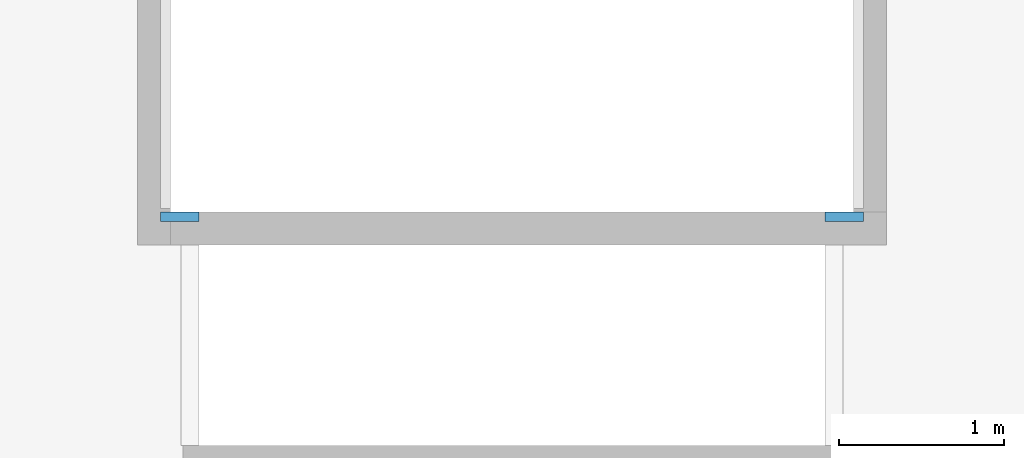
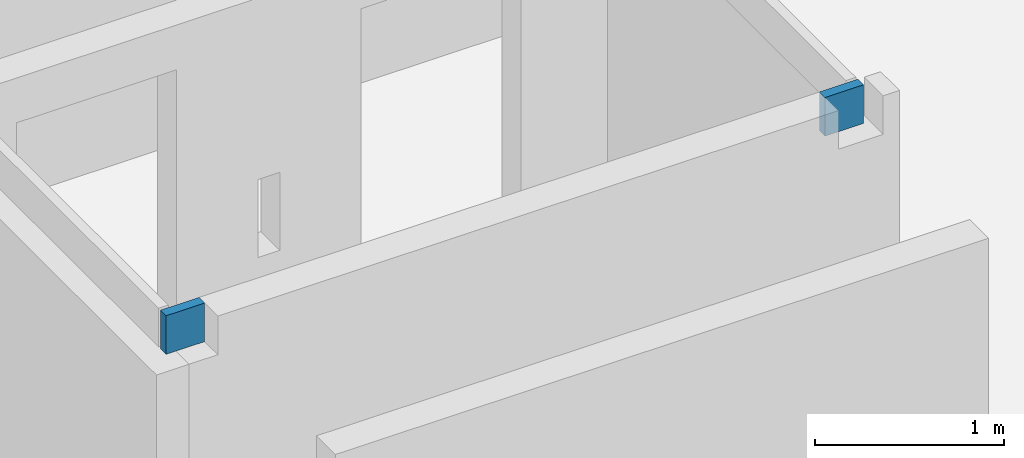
# One storey, part 12 of 14: 2 walls.
"""IFC2X3 building model written with IfcOpenShell, lengths in millimetres."""

from ifc_helpers import new_model, entity, si_unit, converted_unit, derived_unit, direction, frame, frame_2d, origin, place, context, subcontext, project, spatial, rectangle, extrude, material, layer, layer_set, layer_usage, type_object, element, save


model = new_model("IFC2X3")

# Units and contexts
model_context = context("Model", 3, precision=0.01, world=origin(), true_north=direction((6.12303176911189e-17, 1.0)))
body_context = subcontext(model_context, "Body", "Model", "MODEL_VIEW")
ifc_project = project(units=[si_unit("LENGTHUNIT", "METRE", prefix="MILLI"), si_unit("AREAUNIT", "SQUARE_METRE"), si_unit("VOLUMEUNIT", "CUBIC_METRE"), converted_unit("PLANEANGLEUNIT", "DEGREE", entity("IfcRatioMeasure", 0.0174532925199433), si_unit("PLANEANGLEUNIT", "RADIAN"), dimensions=[0, 0, 0, 0, 0, 0, 0]), si_unit("MASSUNIT", "GRAM", prefix="KILO"), derived_unit("MASSDENSITYUNIT", [(si_unit("MASSUNIT", "GRAM", prefix="KILO"), 1), (si_unit("LENGTHUNIT", "METRE"), -3)]), si_unit("TIMEUNIT", "SECOND"), si_unit("FREQUENCYUNIT", "HERTZ"), si_unit("THERMODYNAMICTEMPERATUREUNIT", "DEGREE_CELSIUS"), derived_unit("THERMALTRANSMITTANCEUNIT", [(si_unit("MASSUNIT", "GRAM", prefix="KILO"), 1), (si_unit("THERMODYNAMICTEMPERATUREUNIT", "KELVIN"), -1), (si_unit("TIMEUNIT", "SECOND"), -3)]), derived_unit("VOLUMETRICFLOWRATEUNIT", [(si_unit("LENGTHUNIT", "METRE"), 3), (si_unit("TIMEUNIT", "SECOND"), -1)]), si_unit("ELECTRICCURRENTUNIT", "AMPERE"), si_unit("ELECTRICVOLTAGEUNIT", "VOLT"), si_unit("POWERUNIT", "WATT"), si_unit("FORCEUNIT", "NEWTON", prefix="KILO"), si_unit("ILLUMINANCEUNIT", "LUX"), si_unit("LUMINOUSFLUXUNIT", "LUMEN"), si_unit("LUMINOUSINTENSITYUNIT", "CANDELA"), derived_unit("USERDEFINED", [(si_unit("MASSUNIT", "GRAM", prefix="KILO"), -1), (si_unit("LENGTHUNIT", "METRE"), -2), (si_unit("TIMEUNIT", "SECOND"), 3), (si_unit("LUMINOUSFLUXUNIT", "LUMEN"), 1)]), derived_unit("LINEARVELOCITYUNIT", [(si_unit("LENGTHUNIT", "METRE"), 1), (si_unit("TIMEUNIT", "SECOND"), -1)]), si_unit("PRESSUREUNIT", "PASCAL"), derived_unit("USERDEFINED", [(si_unit("LENGTHUNIT", "METRE"), -2), (si_unit("MASSUNIT", "GRAM", prefix="KILO"), 1), (si_unit("TIMEUNIT", "SECOND"), -2)])], contexts=[model_context])

# Site, building, storey
site_placement = place(None, origin())
site = spatial("IfcSite", under=ifc_project, at=site_placement, Name="Default", CompositionType="ELEMENT")
building_placement = place(site_placement, origin())
building = spatial("IfcBuilding", under=site, at=building_placement, Name="niet gebruiken", CompositionType="ELEMENT")
storey_placement = place(building_placement, frame((0.0, 0.0, 15570.0)))
storey = spatial("IfcBuildingStorey", under=building, at=storey_placement, Name="05 vijfde verdieping", CompositionType="ELEMENT", Elevation=15570.0)

# Walls
ifc_material = material(Name="NLRS_f2_beton prefab")
ifc_layer = layer(ifc_material, 60.0)
ifc_layer_set = layer_set([ifc_layer], Name="Basic Wall:NLRS_22.21_WA_beton prefab d=60_gen")
ifc_layer_usage_1 = layer_usage(ifc_layer_set, "AXIS2", "NEGATIVE", 30.0)
wall_type = type_object("IfcWallType", Name="Basic Wall:NLRS_22.21_WA_beton prefab d=60_gen", PredefinedType="STANDARD", material=ifc_layer_set)
wall_1_placement = place(storey_placement, frame((41065.02321398, 39916.0, 2630.0)))
element("IfcWallStandardCase", 1, at=wall_1_placement, inside=storey, type_object=wall_type, material=ifc_layer_usage_1, Name="Basic Wall:NLRS_22.21_WA_beton prefab d=60_gen", ObjectType="Basic Wall:NLRS_22.21_WA_beton prefab d=60_gen", context=body_context, shape_type="SweptSolid", body=[
    extrude(rectangle(XDim=234.976753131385, YDim=60.0000000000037, at=frame_2d((117.488376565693, -4.12292422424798e-12), x_axis=(-1.0, 0.0))), origin(), (0.0, 0.0, 1.0), 250.000000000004),
])
ifc_layer_usage_2 = layer_usage(ifc_layer_set, "AXIS2", "POSITIVE", -30.0)
wall_2_placement = place(storey_placement, frame((45334.9767860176, 39916.0, 2630.0), z_axis=(0.0, 0.0, 1.0), x_axis=(-1.0, 0.0, 0.0)))
element("IfcWallStandardCase", 2, at=wall_2_placement, inside=storey, type_object=wall_type, material=ifc_layer_usage_2, Name="Basic Wall:NLRS_22.21_WA_beton prefab d=60_gen", ObjectType="Basic Wall:NLRS_22.21_WA_beton prefab d=60_gen", context=body_context, shape_type="SweptSolid", body=[
    extrude(rectangle(XDim=234.976753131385, YDim=60.0000000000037, at=frame_2d((117.488376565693, 4.12114786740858e-12), x_axis=(-1.0, 0.0))), origin(), (0.0, 0.0, 1.0), 250.000000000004),
])

save(model, "model.ifc")
